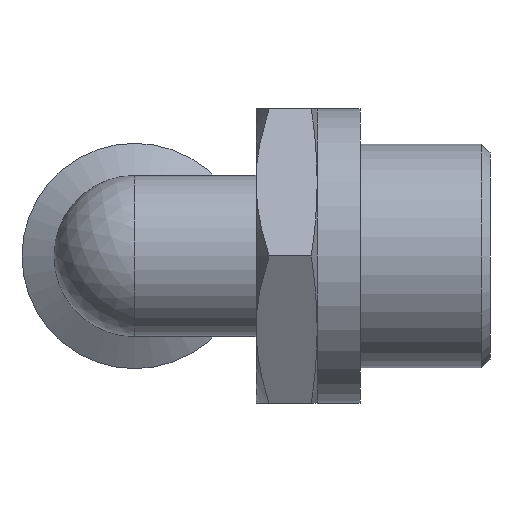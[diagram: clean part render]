
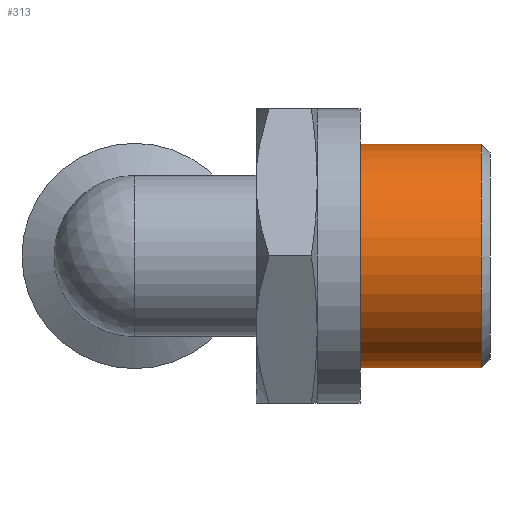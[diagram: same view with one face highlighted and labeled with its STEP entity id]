
A CAD part, left-side view. The second image highlights one B-rep face of the part: STEP entity #313.
In plain terms, the highlighted cylindrical face has radius 6.45 mm (diameter 12.9 mm), a full revolution.
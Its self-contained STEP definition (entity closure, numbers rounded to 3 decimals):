
#270=CARTESIAN_POINT('',(-6.45,-20.,0.));
#271=VERTEX_POINT('',#270);
#272=CARTESIAN_POINT('',(0.0,-20.,0.0));
#273=DIRECTION('',(0.0,-1.0,0.0));
#274=DIRECTION('',(1.0,0.0,0.0));
#275=AXIS2_PLACEMENT_3D('',#272,#273,#274);
#276=CIRCLE('',#275,6.45);
#277=EDGE_CURVE('',#271,#271,#276,.T.);
#294=CARTESIAN_POINT('',(0.0,-16.75,0.0));
#295=DIRECTION('',(0.0,1.0,0.0));
#296=DIRECTION('',(-1.0,0.0,0.0));
#297=AXIS2_PLACEMENT_3D('',#294,#295,#296);
#298=CYLINDRICAL_SURFACE('',#297,6.45);
#299=CARTESIAN_POINT('',(-6.45,-13.,0.0));
#300=VERTEX_POINT('',#299);
#301=CARTESIAN_POINT('',(0.0,-13.,0.0));
#302=DIRECTION('',(0.0,1.0,0.0));
#303=DIRECTION('',(-1.0,0.0,0.0));
#304=AXIS2_PLACEMENT_3D('',#301,#302,#303);
#305=CIRCLE('',#304,6.45);
#306=EDGE_CURVE('',#300,#300,#305,.T.);
#307=ORIENTED_EDGE('',*,*,#306,.F.);
#308=EDGE_LOOP('',(#307));
#309=FACE_OUTER_BOUND('',#308,.T.);
#310=ORIENTED_EDGE('',*,*,#277,.F.);
#311=EDGE_LOOP('',(#310));
#312=FACE_BOUND('',#311,.T.);
#313=ADVANCED_FACE('',(#309,#312),#298,.T.);
